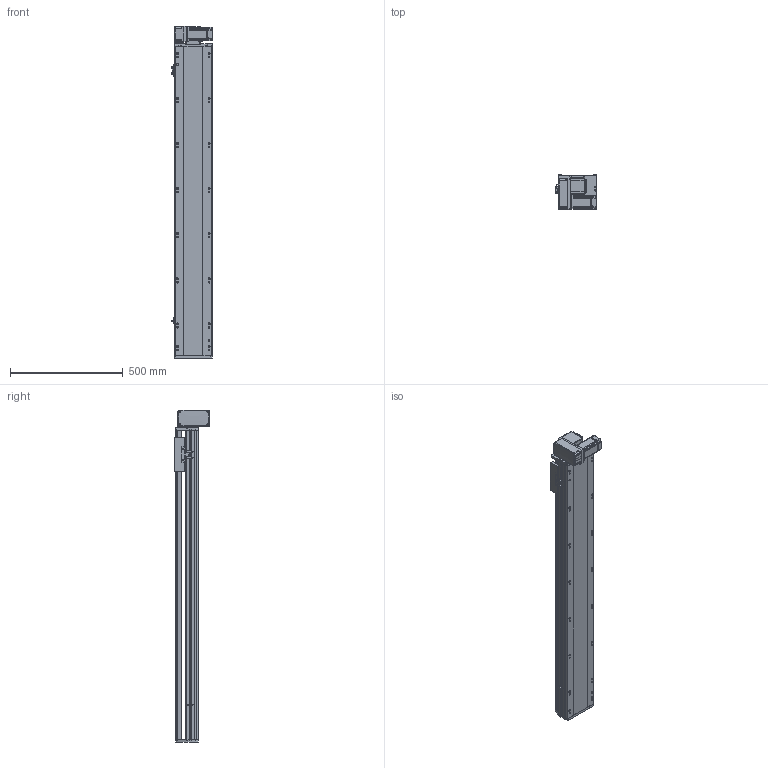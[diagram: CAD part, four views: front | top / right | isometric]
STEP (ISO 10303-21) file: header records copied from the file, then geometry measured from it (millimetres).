
FILE_DESCRIPTION (( 'STEP AP214' ), '1' );
FILE_NAME ('RTB17S-XX-1100-LM-M40-C4.STEP', '2025-12-11T06:27:07', ( '' ), ( '' ), 'SwSTEP 2.0', 'SolidWorks 2018', '' );
FILE_SCHEMA (( 'AUTOMOTIVE_DESIGN' ));
Length unit declared in the file: millimetre
Products named in the file (14): RTB14-L-005P--轴承塑胶压盖^RTB17S-LM-皮带座装配-400W_RTB17S-XX-XX-LM-M40-C4; RTB17S-L-001耜醱啣^RTB17S-XX-XX-LM-M40-C4; RTB14-L-017P^RTB17S-LM-々湍釱蚾饜-400W_RTB17S-XX-XX-LM-M40-C4; 400W侜督萇儂^RTB17S-XX-XX-LM-M40-C4; RTB14-L-018P^RTB17S-LM-々湍釱蚾饜-400W_RTB17S-XX-XX-LM-M40-C4; RMP17S-L-014-T20--々湍釱^RTB17S-LM-々湍釱蚾饜-400W_RTB17S-XX-XX-LM-M40-C4; OMRON EE-SX672 传感器^RTB17S-XX-XX-LM-M40-C4; RTH13-BL-012覜茼え俋离^RTB17S-XX-XX-LM-M40-C4; RTB17S-LM-々湍釱蚾饜-400W^RTB17S-XX-XX-LM-M40-C4; RTB17S-L-004佪裝蹟譫蟀諉釱^RTB17S-XX-XX-LM-M40-C4; RTB17S-L-007奻裔^RTB17S-XX-XX-LM-M40-C4; RTB17-R-011菁釱^RTB17S-XX-XX-LM-M40-C4; RTB14-L-008-M20--萇儂啣^RTB17S-LM-々湍釱蚾饜-400W_RTB17S-XX-XX-LM-M40-C4; RTB17S-XX-1100-LM-M40-C4
Assembly tree (16 placements, depth 3):
  RTB17S-XX-1100-LM-M40-C4
    RTB17-R-011菁釱^RTB17S-XX-XX-LM-M40-C4
    RTB17S-L-007奻裔^RTB17S-XX-XX-LM-M40-C4
    OMRON EE-SX672 传感器^RTB17S-XX-XX-LM-M40-C4  x3
    RTH13-BL-012覜茼え俋离^RTB17S-XX-XX-LM-M40-C4
    RTB17S-L-001耜醱啣^RTB17S-XX-XX-LM-M40-C4
    400W侜督萇儂^RTB17S-XX-XX-LM-M40-C4
    RTB17S-L-004佪裝蹟譫蟀諉釱^RTB17S-XX-XX-LM-M40-C4
    RTB17S-LM-々湍釱蚾饜-400W^RTB17S-XX-XX-LM-M40-C4
      RMP17S-L-014-T20--々湍釱^RTB17S-LM-々湍釱蚾饜-400W_RTB17S-XX-XX-LM-M40-C4
      RTB14-L-005P--轴承塑胶压盖^RTB17S-LM-皮带座装配-400W_RTB17S-XX-XX-LM-M40-C4
      RTB14-L-008-M20--萇儂啣^RTB17S-LM-々湍釱蚾饜-400W_RTB17S-XX-XX-LM-M40-C4
      RTB14-L-017P^RTB17S-LM-々湍釱蚾饜-400W_RTB17S-XX-XX-LM-M40-C4  x2
      RTB14-L-018P^RTB17S-LM-々湍釱蚾饜-400W_RTB17S-XX-XX-LM-M40-C4
Bounding box: 186 x 156.5 x 1472.5 mm (x, y, z)
Volume: 13187235.8 mm3; surface area: 1587893.3 mm2
Topology: 15 solids, 15 shells, 2221 faces, 6141 edges, 4005 vertices
Faces by surface type: plane 1070, cylinder 703, bspline 301, cone 139, torus 8
Entity records: 63401 total; most frequent: CARTESIAN_POINT 17746, ORIENTED_EDGE 9126, DIRECTION 8486, EDGE_CURVE 4563, VERTEX_POINT 2993, AXIS2_PLACEMENT_3D 2923, VECTOR 2640, LINE 2640
